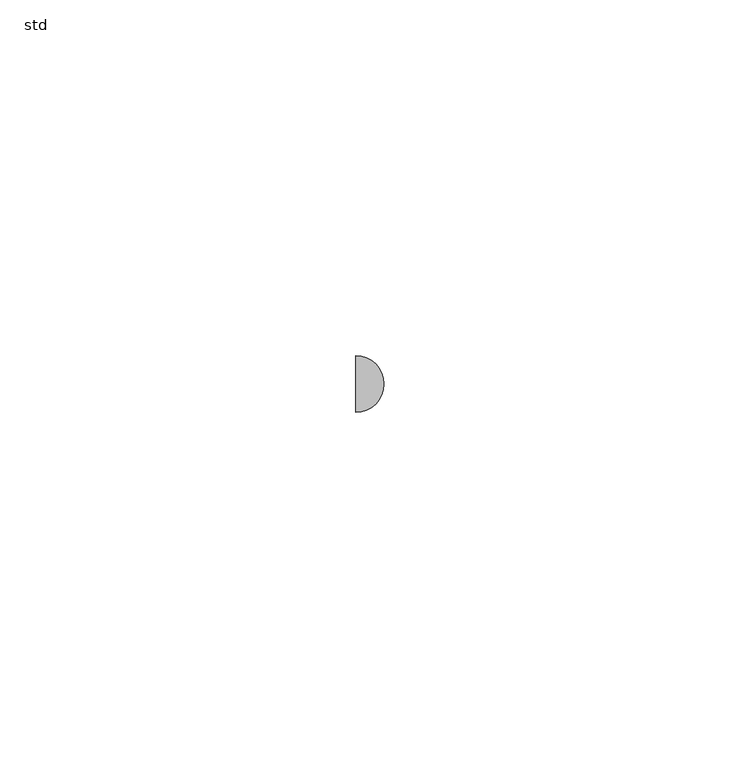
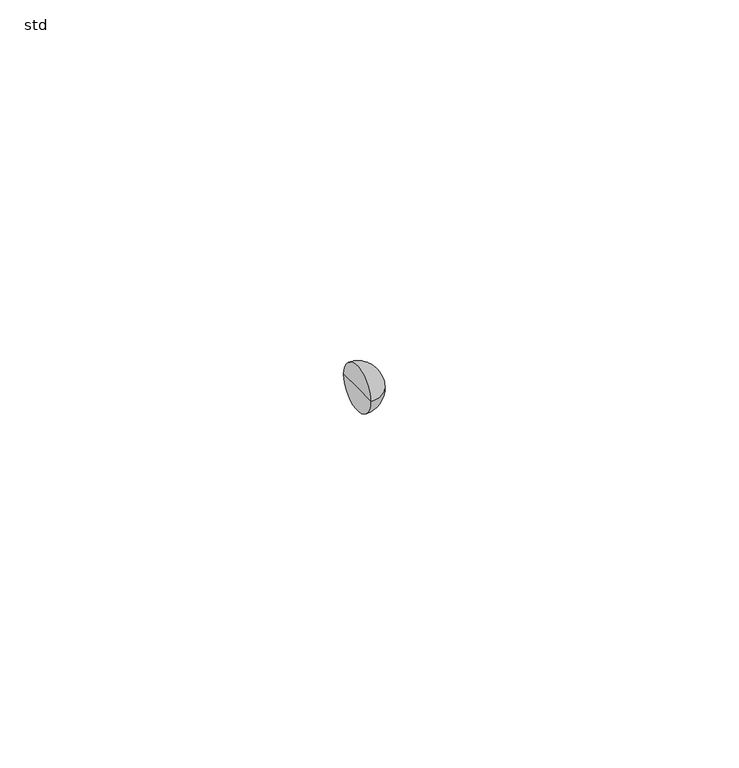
"""IFC4 building model written with IfcOpenShell, lengths in millimetres: pipe fitting geometry, PIF_ST_UN_GM-X double bend_ACO : std."""

from ifc_helpers import new_model, si_unit, point, frame, origin, place, context, project, spatial, circle_curve, ellipse_curve, trimmed, source, transform, mapped, element, save
from ifc_brep_helpers import plane_surface, revolved_surface, advanced_brep


def std_4019324e(model_context):
    return source(origin(), model_context, "Body", "AdvancedBrep", [
        advanced_brep(
        [(-231.2846015, -4.0, 0.0), (-231.2846015, 4.0, 0.0), (-227.2846015, 0.0, 0.0), (-231.2846015, 0.0, 0.0)],
        [
            (0, 1, circle_curve(frame((-231.2846015, 0.0, 0.0), z_axis=(1.0, 0.0, 0.0), x_axis=(0.0, 1.0, 0.0)), 4.0)),
            (1, 2, circle_curve(frame((-231.2846015, 0.0, 0.0), z_axis=(0.0, 0.0, -1.0), x_axis=(-1.0, 0.0, 0.0)), 4.0)),
            (2, 0, circle_curve(frame((-231.2846015, 0.0, 0.0), z_axis=(0.0, 0.0, -1.0), x_axis=(-1.0, 0.0, 0.0)), 4.0)),
            (1, 0, circle_curve(frame((-231.2846015, 0.0, 0.0), z_axis=(1.0, 0.0, 0.0), x_axis=(0.0, 1.0, 0.0)), 4.0)),
            (3, 1),
            (0, 3),
        ],
        [
            revolved_surface(trimmed(ellipse_curve(frame((-231.2846015, 0.0, 0.0), z_axis=(0.0, 0.0, 1.0), x_axis=(-1.0, 0.0, 0.0)), 4.0, 4.0), [point((-227.2846015, 0.0, 0.0))], [point((-231.2846015, 4.0, 0.0))], True, "CARTESIAN"), (-238.2762789, 0.0, 0.0), (-1.0, 0.0, 0.0)),
            plane_surface(frame((-231.2846015, 0.0, 0.0), z_axis=(-1.0, 0.0, 0.0), x_axis=(0.0, 1.0, 0.0))),
        ],
        [
            (0, [[1, 2, 3]]),
            (0, [[4, -3, -2]]),
            (1, [[5, -1, 6]]),
            (1, [[-6, -4, -5]]),
        ],
    ),
    ])


if __name__ == "__main__":
    model = new_model("IFC4")
    model_context = context("Model", 3, world=origin())
    ifc_project = project(units=[si_unit("LENGTHUNIT", "METRE", prefix="MILLI")], contexts=[model_context])
    site = spatial("IfcSite", under=ifc_project)
    building = spatial("IfcBuilding", under=site)
    placement = place(None, origin())
    std_shape = std_4019324e(model_context)
    element("IfcPipeFitting", 1, ObjectType="PIF_ST_UN_GM-X double bend_ACO : std", at=placement, inside=building, context=model_context, shape_type="MappedRepresentation", body=[
        mapped(std_shape, transform((0.0, 0.0, 0.0), x_axis=(1.0, 0.0, 0.0), y_axis=(0.0, 1.0, 0.0), z_axis=(0.0, 0.0, 1.0))),
    ])
    save(model, "model.ifc")
